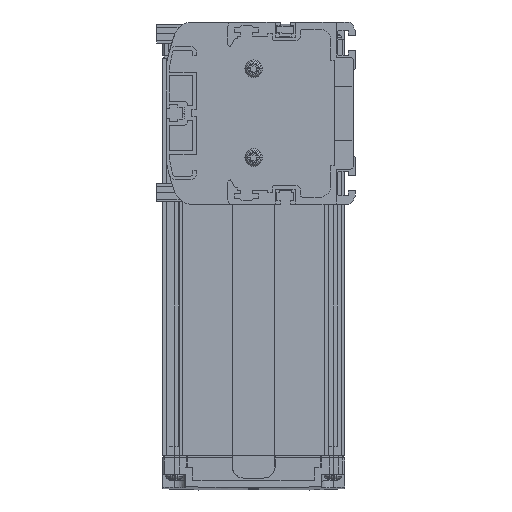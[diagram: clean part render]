
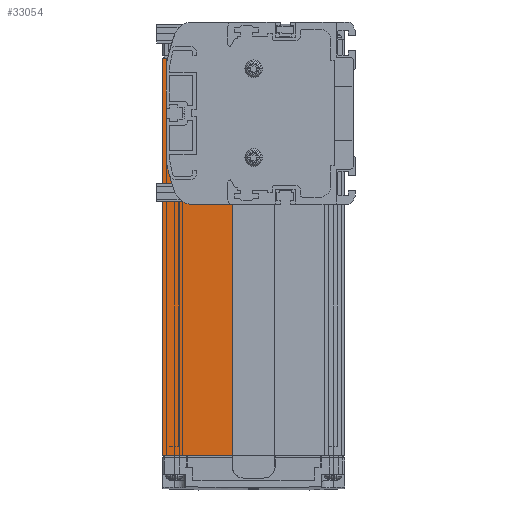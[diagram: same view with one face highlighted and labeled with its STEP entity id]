
A CAD part, left-side view. The second image highlights one B-rep face of the part: STEP entity #33054.
In plain terms, the highlighted planar face has unit normal (-1, 0, 0).
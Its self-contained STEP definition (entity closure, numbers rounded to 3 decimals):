
#5536=CARTESIAN_POINT('',(3.,79.,19.823));
#5537=DIRECTION('',(1.,0.,0.));
#5538=DIRECTION('',(0.,1.,0.));
#5539=AXIS2_PLACEMENT_3D('',#5536,#5537,#5538);
#5549=DIRECTION('',(0.,0.,1.));
#5550=VECTOR('',#5549,39.645);
#5551=CARTESIAN_POINT('',(3.,81.,-19.823));
#5552=LINE('',#5551,#5550);
#5589=CARTESIAN_POINT('',(3.,79.,-19.823));
#5590=DIRECTION('',(-1.,0.,0.));
#5591=DIRECTION('',(0.,1.,0.));
#5592=AXIS2_PLACEMENT_3D('',#5589,#5590,#5591);
#5598=CARTESIAN_POINT('',(3.,2.235,-6.));
#5599=DIRECTION('',(1.,0.,0.));
#5600=DIRECTION('',(0.,0.938,-0.347));
#5601=AXIS2_PLACEMENT_3D('',#5598,#5599,#5600);
#5933=CARTESIAN_POINT('',(3.,2.235,6.));
#5934=DIRECTION('',(1.,0.,0.));
#5935=DIRECTION('',(0.,0.984,0.177));
#5936=AXIS2_PLACEMENT_3D('',#5933,#5934,#5935);
#5951=DIRECTION('',(0.,-1.,0.));
#5952=VECTOR('',#5951,29.9);
#5953=CARTESIAN_POINT('',(3.,82.5,-146.5));
#5954=LINE('',#5953,#5952);
#5955=DIRECTION('',(0.,1.,0.));
#5956=VECTOR('',#5955,2.203);
#5957=CARTESIAN_POINT('',(3.,80.297,23.5));
#5958=LINE('',#5957,#5956);
#5959=DIRECTION('',(0.,-1.,0.));
#5960=VECTOR('',#5959,17.155);
#5961=CARTESIAN_POINT('',(3.,69.755,-39.));
#5962=LINE('',#5961,#5960);
#5997=CARTESIAN_POINT('',(3.,69.755,-31.));
#5998=DIRECTION('',(1.,0.,0.));
#5999=DIRECTION('',(0.,0.,-1.));
#6000=AXIS2_PLACEMENT_3D('',#5997,#5998,#5999);
#12059=DIRECTION('',(0.,0.,1.));
#12060=VECTOR('',#12059,170.);
#12061=CARTESIAN_POINT('',(3.,82.5,-146.5));
#12062=LINE('',#12061,#12060);
#14356=DIRECTION('',(0.,0.,1.));
#14357=VECTOR('',#14356,107.5);
#14358=CARTESIAN_POINT('',(3.,52.6,-146.5));
#14359=LINE('',#14358,#14357);
#20061=CARTESIAN_POINT('',(3.,82.5,23.5));
#20062=VERTEX_POINT('',#20061);
#20107=CARTESIAN_POINT('',(3.,82.5,-146.5));
#20108=VERTEX_POINT('',#20107);
#20109=CARTESIAN_POINT('',(3.,52.6,-146.5));
#20110=VERTEX_POINT('',#20109);
#24661=CARTESIAN_POINT('',(3.,69.755,-39.));
#24662=CARTESIAN_POINT('',(3.,52.6,-39.));
#24663=VERTEX_POINT('',#24661);
#24664=VERTEX_POINT('',#24662);
#24665=CARTESIAN_POINT('',(3.,80.297,23.5));
#24667=VERTEX_POINT('',#24665);
#24689=CARTESIAN_POINT('',(3.,81.,-19.823));
#24690=CARTESIAN_POINT('',(3.,80.968,-20.177));
#24691=VERTEX_POINT('',#24689);
#24692=VERTEX_POINT('',#24690);
#24693=CARTESIAN_POINT('',(3.,77.257,-33.778));
#24694=VERTEX_POINT('',#24693);
#24707=CARTESIAN_POINT('',(3.,80.968,20.177));
#24708=VERTEX_POINT('',#24707);
#24709=CARTESIAN_POINT('',(3.,81.,19.823));
#24710=VERTEX_POINT('',#24709);
#33030=CARTESIAN_POINT('',(3.,67.55,-61.5));
#33031=DIRECTION('',(1.,0.,0.));
#33032=DIRECTION('',(0.,1.,0.));
#33033=AXIS2_PLACEMENT_3D('',#33030,#33031,#33032);
#33034=PLANE('',#33033);
#33036=ORIENTED_EDGE('',*,*,#33035,.T.);
#33038=ORIENTED_EDGE('',*,*,#33037,.F.);
#33040=ORIENTED_EDGE('',*,*,#33039,.F.);
#33042=ORIENTED_EDGE('',*,*,#33041,.T.);
#33044=ORIENTED_EDGE('',*,*,#33043,.F.);
#33045=ORIENTED_EDGE('',*,*,#33014,.F.);
#33046=ORIENTED_EDGE('',*,*,#32446,.F.);
#33047=ORIENTED_EDGE('',*,*,#32461,.F.);
#33048=ORIENTED_EDGE('',*,*,#32500,.T.);
#33049=ORIENTED_EDGE('',*,*,#32517,.F.);
#33051=ORIENTED_EDGE('',*,*,#33050,.F.);
#33052=EDGE_LOOP('',(#33036,#33038,#33040,#33042,#33044,#33045,#33046,#33047,
#33048,#33049,#33051));
#33053=FACE_OUTER_BOUND('',#33052,.F.);
#33054=ADVANCED_FACE('',(#33053),#33034,.F.);
#5540=CIRCLE('',#5539,2.);
#5593=CIRCLE('',#5592,2.);
#5602=CIRCLE('',#5601,80.);
#5937=CIRCLE('',#5936,80.);
#6001=CIRCLE('',#6000,8.);
#32446=EDGE_CURVE('',#24710,#24708,#5540,.T.);
#32461=EDGE_CURVE('',#24691,#24710,#5552,.T.);
#32500=EDGE_CURVE('',#24691,#24692,#5593,.T.);
#32517=EDGE_CURVE('',#24694,#24692,#5602,.T.);
#33014=EDGE_CURVE('',#24708,#24667,#5937,.T.);
#33035=EDGE_CURVE('',#24663,#24664,#5962,.T.);
#33037=EDGE_CURVE('',#20110,#24664,#14359,.T.);
#33039=EDGE_CURVE('',#20108,#20110,#5954,.T.);
#33041=EDGE_CURVE('',#20108,#20062,#12062,.T.);
#33043=EDGE_CURVE('',#24667,#20062,#5958,.T.);
#33050=EDGE_CURVE('',#24663,#24694,#6001,.T.);
